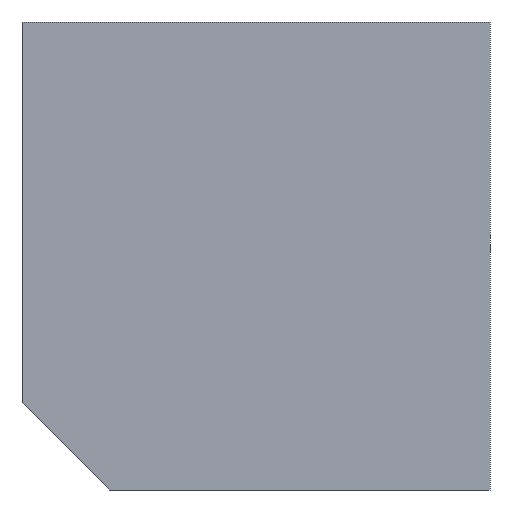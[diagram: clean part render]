
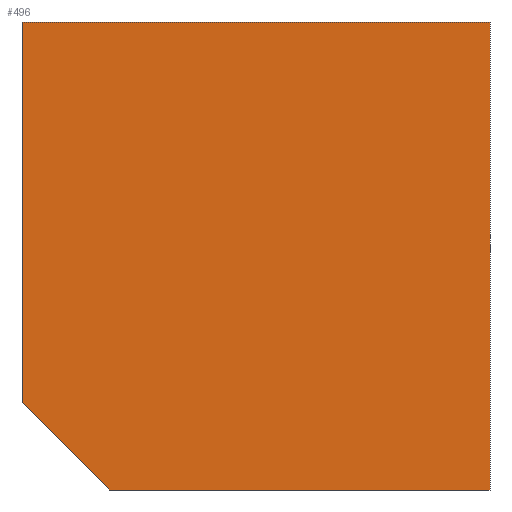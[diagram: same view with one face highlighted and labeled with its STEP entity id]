
A CAD part, front view. The second image highlights one B-rep face of the part: STEP entity #496.
In plain terms, the highlighted planar face has unit normal (0, -1, 0).
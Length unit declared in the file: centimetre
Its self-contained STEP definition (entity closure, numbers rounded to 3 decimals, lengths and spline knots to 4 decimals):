
#2 = PLANE ( 'NONE',  #338 ) ;
#4 = DIRECTION ( 'NONE',  ( 1., 0., 0. ) ) ;
#18 = LINE ( 'NONE', #624, #104 ) ;
#46 = VERTEX_POINT ( 'NONE', #111 ) ;
#57 = EDGE_CURVE ( 'NONE', #323, #46, #18, .T. ) ;
#84 = EDGE_CURVE ( 'NONE', #46, #696, #241, .T. ) ;
#86 = VERTEX_POINT ( 'NONE', #456 ) ;
#104 = VECTOR ( 'NONE', #278, 100. ) ;
#106 = DIRECTION ( 'NONE',  ( 0., 0., 1. ) ) ;
#111 = CARTESIAN_POINT ( 'NONE',  ( 1000., 0., 1000. ) ) ;
#128 = ORIENTED_EDGE ( 'NONE', *, *, #84, .F. ) ;
#139 = ORIENTED_EDGE ( 'NONE', *, *, #418, .T. ) ;
#145 = ORIENTED_EDGE ( 'NONE', *, *, #57, .F. ) ;
#148 = DIRECTION ( 'NONE',  ( 0.707, 0., -0.707 ) ) ;
#155 = ORIENTED_EDGE ( 'NONE', *, *, #223, .T. ) ;
#180 = DIRECTION ( 'NONE',  ( 0., 0., -1. ) ) ;
#190 = DIRECTION ( 'NONE',  ( 0., 0., -1. ) ) ;
#213 = CARTESIAN_POINT ( 'NONE',  ( 0., 0., 0. ) ) ;
#223 = EDGE_CURVE ( 'NONE', #323, #659, #523, .T. ) ;
#241 = LINE ( 'NONE', #570, #612 ) ;
#243 = CARTESIAN_POINT ( 'NONE',  ( 1000., 0., 0. ) ) ;
#273 = FACE_OUTER_BOUND ( 'NONE', #654, .T. ) ;
#278 = DIRECTION ( 'NONE',  ( 1., 0., 0. ) ) ;
#323 = VERTEX_POINT ( 'NONE', #577 ) ;
#328 = CARTESIAN_POINT ( 'NONE',  ( 0., 0., 187.2281 ) ) ;
#338 = AXIS2_PLACEMENT_3D ( 'NONE', #432, #502, #106 ) ;
#360 = CARTESIAN_POINT ( 'NONE',  ( 0., 0., 1000. ) ) ;
#374 = LINE ( 'NONE', #213, #655 ) ;
#418 = EDGE_CURVE ( 'NONE', #86, #696, #374, .T. ) ;
#428 = LINE ( 'NONE', #328, #509 ) ;
#432 = CARTESIAN_POINT ( 'NONE',  ( 0., 0., 1000. ) ) ;
#454 = EDGE_CURVE ( 'NONE', #659, #86, #428, .T. ) ;
#456 = CARTESIAN_POINT ( 'NONE',  ( 187.2281, 0., 0. ) ) ;
#482 = ORIENTED_EDGE ( 'NONE', *, *, #454, .T. ) ;
#496 = ADVANCED_FACE ( 'NONE', ( #273 ), #2, .F. ) ;
#502 = DIRECTION ( 'NONE',  ( 0., 1., 0. ) ) ;
#509 = VECTOR ( 'NONE', #148, 100. ) ;
#517 = CARTESIAN_POINT ( 'NONE',  ( 0., 0., 187.2281 ) ) ;
#523 = LINE ( 'NONE', #360, #666 ) ;
#570 = CARTESIAN_POINT ( 'NONE',  ( 1000., 0., 1000. ) ) ;
#577 = CARTESIAN_POINT ( 'NONE',  ( 0., 0., 1000. ) ) ;
#612 = VECTOR ( 'NONE', #180, 100. ) ;
#624 = CARTESIAN_POINT ( 'NONE',  ( 0., 0., 1000. ) ) ;
#654 = EDGE_LOOP ( 'NONE', ( #155, #482, #139, #128, #145 ) ) ;
#655 = VECTOR ( 'NONE', #4, 100. ) ;
#659 = VERTEX_POINT ( 'NONE', #517 ) ;
#666 = VECTOR ( 'NONE', #190, 100. ) ;
#696 = VERTEX_POINT ( 'NONE', #243 ) ;
